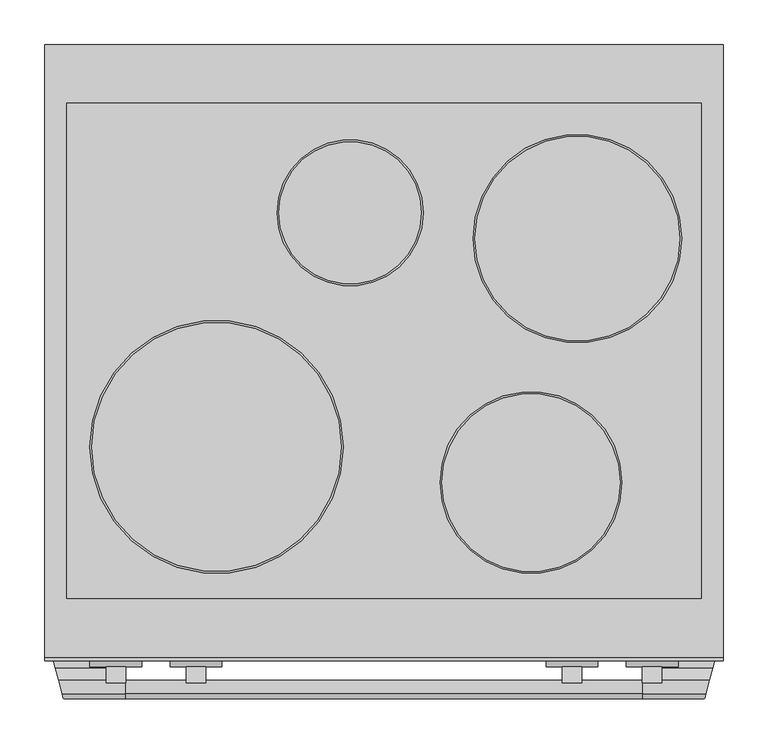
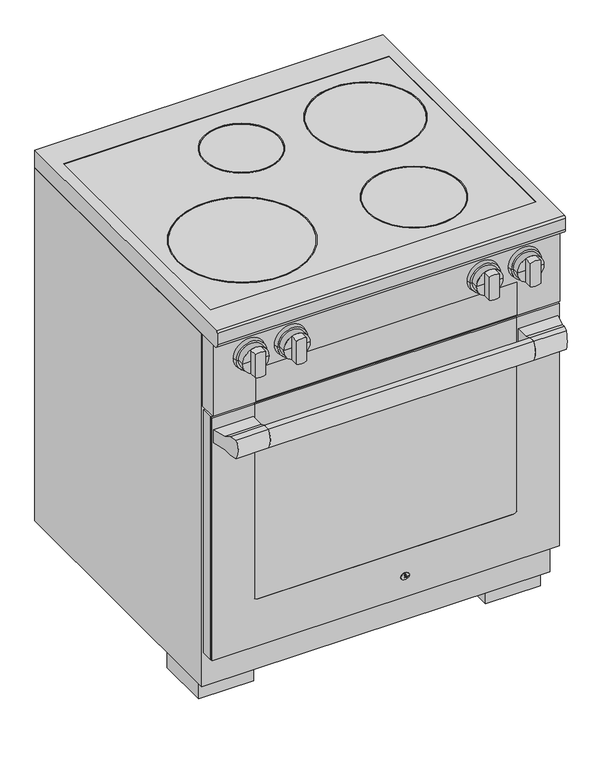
"""IFC4 building model written with IfcOpenShell, lengths in millimetres: proxy geometry, 10902350_USA_HR1622-2_EDST-CLST : 25162271_USA_10902350_HR1622-2_EDST-CLST."""

from ifc_helpers import new_model, si_unit, point, frame, frame_2d, origin, origin_with_axes, place, context, project, spatial, polyline, circle_curve, ellipse_curve, trimmed, segment, composite_curve, outline, extrude, faceted_brep, source, transform, mapped, element, save
from ifc_brep_helpers import plane_surface, cylinder_surface, revolved_surface, extruded_surface, advanced_brep


def specialty_equipment_7ad5a8f8(model_context):
    return source(origin(), model_context, "Body", "SolidModel", [
        extrude(outline(composite_curve([segment(polyline([(-729.0, 667.0), (-714.0, 667.0), (-714.0, 624.0), (-729.0, 624.0)]), True, "CONTINUOUS"), segment(trimmed(circle_curve(frame_2d((-693.4791667, 645.5)), 41.5208333), [point((-729.0, 624.0))], [point((-729.0, 667.0))], False, "CARTESIAN"), True, "CONTINUOUS")], self_intersect=False)), frame((-290.0, 0.0, 0.0), z_axis=(1.0, 0.0, 0.0), x_axis=(0.0, 1.0, 0.0)), (0.0, 0.0, 1.0), 580.0),
        extrude(outline(polyline([(-380.0, -638.0), (380.0, -638.0), (380.0, -664.7), (-380.0, -664.7), (-380.0, -638.0)])), frame((0.0, 0.0, 127.0), z_axis=(0.0, 0.0, 1.0), x_axis=(1.0, 0.0, 0.0)), (0.0, 0.0, 1.0), 561.0),
        extrude(outline(polyline([(-379.0, -664.7), (379.0, -664.7), (379.0, -668.7), (-379.0, -668.7), (-379.0, -664.7)])), frame((0.0, 0.0, 128.0), z_axis=(0.0, 0.0, 1.0), x_axis=(1.0, 0.0, 0.0)), (0.0, 0.0, 1.0), 559.0),
        advanced_brep(
        [(287.0, -664.7, 688.0), (380.0, -664.7, 688.0), (380.0, -664.7, 127.0), (-380.0, -664.7, 127.0), (-380.0, -664.7, 688.0), (-287.0, -664.7, 688.0), (-287.0, -664.7, 687.0), (-379.0, -664.7, 687.0), (-379.0, -664.7, 128.0), (379.0, -664.7, 128.0), (379.0, -664.7, 687.0), (287.0, -664.7, 687.0), (-287.0, -670.0, 688.0), (-380.0, -670.0, 688.0), (-380.0, -670.0, 127.0), (380.0, -670.0, 127.0), (380.0, -670.0, 688.0), (287.0, -670.0, 688.0), (287.0, -670.0, 241.0), (281.0, -670.0, 235.0), (-281.0, -670.0, 235.0), (-287.0, -670.0, 241.0), (-287.0, -668.7, 241.0), (-287.0, -668.7, 687.0), (281.0, -668.7, 235.0), (-281.0, -668.7, 235.0), (287.0, -668.7, 687.0), (287.0, -668.7, 241.0), (379.0, -668.7, 687.0), (379.0, -668.7, 128.0), (-379.0, -668.7, 128.0), (-379.0, -668.7, 687.0)],
        [
            (0, 1),
            (1, 2),
            (2, 3),
            (3, 4),
            (4, 5),
            (5, 6),
            (6, 7),
            (7, 8),
            (8, 9),
            (9, 10),
            (10, 11),
            (11, 0),
            (12, 13),
            (13, 14),
            (14, 15),
            (15, 16),
            (16, 17),
            (17, 18),
            (18, 19, circle_curve(frame((281.0, -670.0, 241.0), z_axis=(0.0, 1.0, 0.0), x_axis=(-1.0, 0.0, 0.0)), 6.0)),
            (19, 20),
            (20, 21, circle_curve(frame((-281.0, -670.0, 241.0), z_axis=(0.0, 1.0, 0.0), x_axis=(-1.0, 0.0, 0.0)), 6.0)),
            (21, 12),
            (21, 22),
            (22, 23),
            (23, 6),
            (5, 12),
            (19, 24),
            (24, 25),
            (25, 20),
            (17, 0),
            (11, 26),
            (26, 27),
            (27, 18),
            (16, 1),
            (15, 2),
            (14, 3),
            (13, 4),
            (25, 22, circle_curve(frame((-281.0, -668.7, 241.0), z_axis=(0.0, 1.0, 0.0), x_axis=(-1.0, 0.0, 0.0)), 6.0)),
            (27, 24, circle_curve(frame((281.0, -668.7, 241.0), z_axis=(0.0, 1.0, 0.0), x_axis=(-1.0, 0.0, 0.0)), 6.0)),
            (28, 29),
            (29, 30),
            (30, 31),
            (31, 23),
            (26, 28),
            (28, 10),
            (9, 29),
            (8, 30),
            (7, 31),
        ],
        [
            plane_surface(frame((-287.0, -664.7, 241.0), z_axis=(0.0, 1.0, 0.0), x_axis=(0.0, 0.0, -1.0))),
            plane_surface(frame((-287.0, -670.0, 241.0), z_axis=(0.0, -1.0, 0.0), x_axis=(0.0, 0.0, 1.0))),
            plane_surface(frame((-287.0, -664.7, 688.0), z_axis=(1.0, 0.0, 0.0), x_axis=(0.0, -1.0, 0.0))),
            plane_surface(frame((-281.0, -664.7, 235.0), z_axis=(0.0, 0.0, 1.0), x_axis=(0.0, -1.0, 0.0))),
            plane_surface(frame((287.0, -664.7, 241.0), z_axis=(-1.0, 0.0, 0.0), x_axis=(0.0, -1.0, 0.0))),
            plane_surface(frame((287.0, -664.7, 688.0), z_axis=(0.0, 0.0, 1.0), x_axis=(0.0, -1.0, 0.0))),
            plane_surface(frame((380.0, -664.7, 688.0), z_axis=(1.0, 0.0, 0.0), x_axis=(0.0, -1.0, 0.0))),
            plane_surface(frame((380.0, -664.7, 127.0), z_axis=(0.0, 0.0, -1.0), x_axis=(0.0, -1.0, 0.0))),
            plane_surface(frame((-380.0, -664.7, 127.0), z_axis=(-1.0, 0.0, 0.0), x_axis=(0.0, -1.0, 0.0))),
            plane_surface(frame((-380.0, -664.7, 688.0), z_axis=(0.0, 0.0, 1.0), x_axis=(0.0, -1.0, 0.0))),
            revolved_surface(polyline([(-287.0, -670.0, 241.0), (-287.0, -668.7, 241.0)]), (-281.0, -670.0, 241.0), (0.0, -1.0, 0.0)),
            revolved_surface(polyline([(275.0, -670.0, 241.0), (275.0, -668.7, 241.0)]), (281.0, -670.0, 241.0), (0.0, -1.0, 0.0)),
            plane_surface(frame((379.0, -668.7, 687.0), z_axis=(0.0, 1.0, 0.0), x_axis=(0.0, 0.0, 1.0))),
            plane_surface(frame((379.0, -664.7, 687.0), z_axis=(-1.0, 0.0, 0.0), x_axis=(0.0, -1.0, 0.0))),
            plane_surface(frame((379.0, -664.7, 128.0), z_axis=(0.0, 0.0, 1.0), x_axis=(0.0, -1.0, 0.0))),
            plane_surface(frame((-379.0, -664.7, 128.0), z_axis=(1.0, 0.0, 0.0), x_axis=(0.0, -1.0, 0.0))),
            plane_surface(frame((-379.0, -664.7, 687.0), z_axis=(0.0, 0.0, -1.0), x_axis=(0.0, -1.0, 0.0))),
        ],
        [
            (0, [[1, 2, 3, 4, 5, 6, 7, 8, 9, 10, 11, 12]]),
            (1, [[13, 14, 15, 16, 17, 18, 19, 20, 21, 22]]),
            (2, [[-22, 23, 24, 25, -6, 26]]),
            (3, [[-20, 27, 28, 29]]),
            (4, [[-18, 30, -12, 31, 32, 33]]),
            (5, [[-1, -30, -17, 34]]),
            (6, [[-2, -34, -16, 35]]),
            (7, [[-3, -35, -15, 36]]),
            (8, [[-4, -36, -14, 37]]),
            (9, [[-5, -37, -13, -26]]),
            (10, [[-21, -29, 38, -23]]),
            (11, [[-19, -33, 39, -27]]),
            (12, [[40, 41, 42, 43, -24, -38, -28, -39, -32, 44]]),
            (13, [[-40, 45, -10, 46]]),
            (14, [[-41, -46, -9, 47]]),
            (15, [[-42, -47, -8, 48]]),
            (16, [[-45, -44, -31, -11]]),
            (16, [[-48, -7, -25, -43]]),
        ],
    ),
        extrude(outline(polyline([(-351.0, -617.0), (351.0, -617.0), (351.0, -638.0), (-351.0, -638.0), (-351.0, -617.0)])), frame((0.0, 0.0, 133.0), z_axis=(0.0, 0.0, 1.0), x_axis=(1.0, 0.0, 0.0)), (0.0, 0.0, 1.0), 550.0),
        advanced_brep(
        [(-290.0, -700.0, 630.0), (-290.0, -670.0, 630.0), (-290.0, -670.0, 661.0), (-290.0, -700.0, 661.0), (-290.0, -714.0, 667.0), (-290.0, -729.0, 667.0), (-290.0, -729.0, 624.0), (-290.0, -714.0, 624.0), (-368.9615242, -700.0, 630.0), (-377.0, -670.0, 630.0), (-377.0, -670.0, 661.0), (-368.9615242, -700.0, 661.0), (-365.2102355, -714.0, 667.0), (-361.1909976, -729.0, 667.0), (-361.1909976, -729.0, 624.0), (-365.2102355, -714.0, 624.0)],
        [
            (0, 1),
            (1, 2),
            (2, 3),
            (3, 4),
            (4, 5),
            (5, 6, circle_curve(frame((-290.0, -693.4791667, 645.5), z_axis=(1.0, 0.0, 0.0), x_axis=(0.0, 0.0, 1.0)), 41.5208333)),
            (6, 7),
            (7, 0),
            (0, 8),
            (8, 9),
            (9, 1),
            (9, 10),
            (10, 2),
            (10, 11),
            (11, 3),
            (4, 12),
            (12, 13),
            (13, 5),
            (13, 14, ellipse_curve(frame((-370.7087763, -693.4791667, 645.5), z_axis=(0.9659258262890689, 0.258819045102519, 0.0), x_axis=(0.2588190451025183, -0.9659258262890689, 0.0)), 42.9855297, 41.5208333)),
            (14, 6),
            (14, 15),
            (15, 7),
            (8, 15),
            (12, 11),
        ],
        [
            plane_surface(frame((-290.0, -670.0, 630.0), z_axis=(1.0, 0.0, 0.0), x_axis=(0.0, 1.0, 0.0))),
            plane_surface(frame((-290.0, -700.0, 630.0), z_axis=(0.0, 0.0, -1.0), x_axis=(-1.0, 0.0, 0.0))),
            plane_surface(frame((-290.0, -670.0, 630.0), z_axis=(0.0, 1.0, 0.0), x_axis=(-1.0, 0.0, 0.0))),
            plane_surface(frame((-290.0, -670.0, 661.0), z_axis=(0.0, 0.0, 1.0), x_axis=(-1.0, 0.0, 0.0))),
            plane_surface(frame((-290.0, -714.0, 667.0), z_axis=(0.0, 0.0, 1.0), x_axis=(-1.0, 0.0, 0.0))),
            cylinder_surface(frame((-377.0, -693.4791667, 645.5), z_axis=(1.0, 0.0, 0.0), x_axis=(0.0, 0.0, 1.0)), 41.5208333),
            plane_surface(frame((-290.0, -729.0, 624.0), z_axis=(0.0, 0.0, -1.0), x_axis=(-1.0, 0.0, 0.0))),
            plane_surface(frame((-354.5578883, -753.7551012, 668.5), z_axis=(-0.9659258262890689, -0.258819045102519, 0.0), x_axis=(0.0, 0.0, -1.0))),
            plane_surface(frame((-290.0, -700.0, 661.0), z_axis=(0.0, 0.39391929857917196, 0.919145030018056), x_axis=(-1.0, 0.0, 0.0))),
            plane_surface(frame((-290.0, -714.0, 624.0), z_axis=(0.0, 0.39391929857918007, -0.9191450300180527), x_axis=(-1.0, 0.0, 0.0))),
        ],
        [
            (0, [[1, 2, 3, 4, 5, 6, 7, 8]]),
            (1, [[-1, 9, 10, 11]]),
            (2, [[-2, -11, 12, 13]]),
            (3, [[-3, -13, 14, 15]]),
            (4, [[-5, 16, 17, 18]]),
            (5, [[-6, -18, 19, 20]]),
            (6, [[-7, -20, 21, 22]]),
            (7, [[-10, 23, -21, -19, -17, 24, -14, -12]]),
            (8, [[-4, -15, -24, -16]]),
            (9, [[-8, -22, -23, -9]]),
        ],
    ),
        advanced_brep(
        [(290.0, -700.0, 661.0), (290.0, -670.0, 661.0), (290.0, -670.0, 630.0), (290.0, -700.0, 630.0), (290.0, -714.0, 624.0), (290.0, -729.0, 624.0), (290.0, -729.0, 667.0), (290.0, -714.0, 667.0), (361.1909976, -729.0, 667.0), (365.2102355, -714.0, 667.0), (361.1909976, -729.0, 624.0), (365.2102355, -714.0, 624.0), (377.0, -670.0, 630.0), (368.9615242, -700.0, 630.0), (377.0, -670.0, 661.0), (368.9615242, -700.0, 661.0)],
        [
            (0, 1),
            (1, 2),
            (2, 3),
            (3, 4),
            (4, 5),
            (5, 6, circle_curve(frame((290.0, -693.4791667, 645.5), z_axis=(-1.0, 0.0, 0.0), x_axis=(0.0, 0.0, 1.0)), 41.5208333)),
            (6, 7),
            (7, 0),
            (6, 8),
            (8, 9),
            (9, 7),
            (5, 10),
            (10, 8, ellipse_curve(frame((370.7087763, -693.4791667, 645.5), z_axis=(-0.9659258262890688, 0.258819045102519, 0.0), x_axis=(0.2588190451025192, 0.9659258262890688, 0.0)), 42.9855297, 41.5208333)),
            (4, 11),
            (11, 10),
            (2, 12),
            (12, 13),
            (13, 3),
            (1, 14),
            (14, 12),
            (0, 15),
            (15, 14),
            (11, 13),
            (15, 9),
        ],
        [
            plane_surface(frame((290.0, -714.0, 667.0), z_axis=(-1.0000000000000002, 0.0, 0.0), x_axis=(0.0, 0.9191450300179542, -0.3939192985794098))),
            plane_surface(frame((377.0, -714.0, 667.0), z_axis=(0.0, 0.0, 1.0), x_axis=(-1.0, 0.0, 0.0))),
            cylinder_surface(frame((290.0, -693.4791667, 645.5), z_axis=(1.0, 0.0, 0.0), x_axis=(0.0, 0.0, 1.0)), 41.5208333),
            plane_surface(frame((377.0, -729.0, 624.0), z_axis=(0.0, 0.0, -1.0), x_axis=(-1.0, 0.0, 0.0))),
            plane_surface(frame((377.0, -700.0, 630.0), z_axis=(0.0, 0.0, -1.0), x_axis=(-1.0, 0.0, 0.0))),
            plane_surface(frame((377.0, -670.0, 630.0), z_axis=(0.0, 1.0, 0.0), x_axis=(-1.0, 0.0, 0.0))),
            plane_surface(frame((377.0, -670.0, 661.0), z_axis=(0.0, 0.0, 1.0), x_axis=(-1.0, 0.0, 0.0))),
            plane_surface(frame((377.0, -670.0, 668.5), z_axis=(0.9659258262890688, -0.258819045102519, 0.0), x_axis=(0.0, 0.0, -1.0))),
            plane_surface(frame((377.0, -700.0, 661.0), z_axis=(0.0, 0.3939192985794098, 0.9191450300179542), x_axis=(-1.0, 0.0, 0.0))),
            plane_surface(frame((377.0, -714.0, 624.0), z_axis=(0.0, 0.3939192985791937, -0.9191450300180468), x_axis=(-1.0, 0.0, 0.0))),
        ],
        [
            (0, [[1, 2, 3, 4, 5, 6, 7, 8]]),
            (1, [[-7, 9, 10, 11]]),
            (2, [[-6, 12, 13, -9]]),
            (3, [[-5, 14, 15, -12]]),
            (4, [[-3, 16, 17, 18]]),
            (5, [[-2, 19, 20, -16]]),
            (6, [[-1, 21, 22, -19]]),
            (7, [[-10, -13, -15, 23, -17, -20, -22, 24]]),
            (8, [[-8, -11, -24, -21]]),
            (9, [[-4, -18, -23, -14]]),
        ],
    ),
        extrude(outline(polyline([(356.0, -66.0), (356.0, -622.0), (-356.0, -622.0), (-356.0, -66.0), (356.0, -66.0)])), frame((0.0, 0.0, 896.4), z_axis=(0.0, 0.0, 1.0), x_axis=(1.0, 0.0, 0.0)), (0.0, 0.0, 1.0), 4.0),
        advanced_brep(
        [(381.0, 0.0, 902.0), (381.0, -688.0, 902.0), (381.0, -692.0, 898.0), (381.0, -692.0, 872.0), (381.0, -682.0, 862.0), (381.0, 0.0, 862.0), (-381.0, 0.0, 902.0), (-381.0, 0.0, 862.0), (-381.0, -682.0, 862.0), (-381.0, -692.0, 872.0), (-381.0, -692.0, 898.0), (-381.0, -688.0, 902.0), (-356.0, -66.0, 902.0), (356.0, -66.0, 902.0), (356.0, -622.0, 902.0), (-356.0, -622.0, 902.0), (356.0, -66.0, 896.4), (-356.0, -66.0, 896.4), (-356.0, -622.0, 896.4), (356.0, -622.0, 896.4)],
        [
            (0, 1),
            (1, 2, circle_curve(frame((381.0, -688.0, 898.0), z_axis=(1.0, 0.0, 0.0), x_axis=(0.0, 0.0, 1.0)), 4.0)),
            (2, 3),
            (3, 4, circle_curve(frame((381.0, -682.0, 872.0), z_axis=(1.0, 0.0, 0.0), x_axis=(0.0, 0.0, 1.0)), 10.0)),
            (4, 5),
            (5, 0),
            (6, 7),
            (7, 8),
            (8, 9, circle_curve(frame((-381.0, -682.0, 872.0), z_axis=(-1.0, 0.0, 0.0), x_axis=(0.0, 0.0, 1.0)), 10.0)),
            (9, 10),
            (10, 11, circle_curve(frame((-381.0, -688.0, 898.0), z_axis=(-1.0, 0.0, 0.0), x_axis=(0.0, 0.0, 1.0)), 4.0)),
            (11, 6),
            (0, 6),
            (11, 1),
            (12, 13),
            (13, 14),
            (14, 15),
            (15, 12),
            (10, 2),
            (9, 3),
            (8, 4),
            (7, 5),
            (16, 17),
            (17, 18),
            (18, 19),
            (19, 16),
            (16, 13),
            (12, 17),
            (15, 18),
            (14, 19),
        ],
        [
            plane_surface(frame((381.0, -688.0, 902.0), z_axis=(1.0, 0.0, 0.0), x_axis=(0.0, -1.0, 0.0))),
            plane_surface(frame((-381.0, -688.0, 902.0), z_axis=(-1.0, 0.0, 0.0), x_axis=(0.0, 1.0, 0.0))),
            plane_surface(frame((381.0, 0.0, 902.0), z_axis=(0.0, 0.0, 1.0), x_axis=(-1.0, 0.0, 0.0))),
            cylinder_surface(frame((-381.0, -688.0, 898.0), z_axis=(1.0, 0.0, 0.0), x_axis=(0.0, 0.0, 1.0)), 4.0),
            plane_surface(frame((381.0, -692.0, 898.0), z_axis=(0.0, -1.0, 0.0), x_axis=(-1.0, 0.0, 0.0))),
            cylinder_surface(frame((-381.0, -682.0, 872.0), z_axis=(1.0, 0.0, 0.0), x_axis=(0.0, 0.0, 1.0)), 10.0),
            plane_surface(frame((381.0, -682.0, 862.0), z_axis=(0.0, 0.0, -1.0), x_axis=(-1.0, 0.0, 0.0))),
            plane_surface(frame((381.0, 0.0, 862.0), z_axis=(0.0, 1.0, 0.0), x_axis=(-1.0, 0.0, 0.0))),
            plane_surface(frame((-356.0, -66.0, 896.4), z_axis=(0.0, 0.0, 1.0), x_axis=(1.0, 0.0, 0.0))),
            plane_surface(frame((356.0, -66.0, 902.0), z_axis=(0.0, -1.0, 0.0), x_axis=(0.0, 0.0, -1.0))),
            plane_surface(frame((-356.0, -66.0, 902.0), z_axis=(1.0, 0.0, 0.0), x_axis=(0.0, 0.0, -1.0))),
            plane_surface(frame((-356.0, -622.0, 902.0), z_axis=(0.0, 1.0, 0.0), x_axis=(0.0, 0.0, -1.0))),
            plane_surface(frame((356.0, -622.0, 902.0), z_axis=(-1.0, 0.0, 0.0), x_axis=(0.0, 0.0, -1.0))),
        ],
        [
            (0, [[1, 2, 3, 4, 5, 6]]),
            (1, [[7, 8, 9, 10, 11, 12]]),
            (2, [[-1, 13, -12, 14], [15, 16, 17, 18]]),
            (3, [[-2, -14, -11, 19]]),
            (4, [[-3, -19, -10, 20]]),
            (5, [[-4, -20, -9, 21]]),
            (6, [[-5, -21, -8, 22]]),
            (7, [[-6, -22, -7, -13]]),
            (8, [[23, 24, 25, 26]]),
            (9, [[-23, 27, -15, 28]]),
            (10, [[-24, -28, -18, 29]]),
            (11, [[-25, -29, -17, 30]]),
            (12, [[-26, -30, -16, -27]]),
        ],
    ),
        extrude(outline(composite_curve([segment(trimmed(circle_curve(frame_2d((-38.0, -189.0)), 82.0), [point((44.0, -189.0))], [point((-120.0, -189.0))], False, "CARTESIAN"), True, "CONTINUOUS"), segment(trimmed(circle_curve(frame_2d((-38.0, -189.0)), 82.0), [point((-120.0, -189.0))], [point((44.0, -189.0))], False, "CARTESIAN"), True, "CONTINUOUS")], self_intersect=False), holes=[composite_curve([segment(trimmed(circle_curve(frame_2d((-38.0, -189.0)), 80.0), [point((42.0, -189.0))], [point((-118.0, -189.0))], True, "CARTESIAN"), True, "CONTINUOUS"), segment(trimmed(circle_curve(frame_2d((-38.0, -189.0)), 80.0), [point((-118.0, -189.0))], [point((42.0, -189.0))], True, "CARTESIAN"), True, "CONTINUOUS")], self_intersect=False)]), frame((0.0, 0.0, 900.4), z_axis=(0.0, 0.0, 1.0), x_axis=(1.0, 0.0, 0.0)), (0.0, 0.0, 1.0), 1.0),
        extrude(outline(composite_curve([segment(trimmed(circle_curve(frame_2d((217.0, -218.0)), 117.0), [point((334.0, -218.0))], [point((100.0, -218.0))], False, "CARTESIAN"), True, "CONTINUOUS"), segment(trimmed(circle_curve(frame_2d((217.0, -218.0)), 117.0), [point((100.0, -218.0))], [point((334.0, -218.0))], False, "CARTESIAN"), True, "CONTINUOUS")], self_intersect=False), holes=[composite_curve([segment(trimmed(circle_curve(frame_2d((217.0, -218.0)), 115.0), [point((332.0, -218.0))], [point((102.0, -218.0))], True, "CARTESIAN"), True, "CONTINUOUS"), segment(trimmed(circle_curve(frame_2d((217.0, -218.0)), 115.0), [point((102.0, -218.0))], [point((332.0, -218.0))], True, "CARTESIAN"), True, "CONTINUOUS")], self_intersect=False)]), frame((0.0, 0.0, 900.4), z_axis=(0.0, 0.0, 1.0), x_axis=(1.0, 0.0, 0.0)), (0.0, 0.0, 1.0), 1.0),
        extrude(outline(composite_curve([segment(trimmed(circle_curve(frame_2d((165.0, -492.0)), 102.0), [point((267.0, -492.0))], [point((63.0, -492.0))], False, "CARTESIAN"), True, "CONTINUOUS"), segment(trimmed(circle_curve(frame_2d((165.0, -492.0)), 102.0), [point((63.0, -492.0))], [point((267.0, -492.0))], False, "CARTESIAN"), True, "CONTINUOUS")], self_intersect=False), holes=[composite_curve([segment(trimmed(circle_curve(frame_2d((165.0, -492.0)), 100.0), [point((265.0, -492.0))], [point((65.0, -492.0))], True, "CARTESIAN"), True, "CONTINUOUS"), segment(trimmed(circle_curve(frame_2d((165.0, -492.0)), 100.0), [point((65.0, -492.0))], [point((265.0, -492.0))], True, "CARTESIAN"), True, "CONTINUOUS")], self_intersect=False)]), frame((0.0, 0.0, 900.4), z_axis=(0.0, 0.0, 1.0), x_axis=(1.0, 0.0, 0.0)), (0.0, 0.0, 1.0), 1.0),
        extrude(outline(composite_curve([segment(trimmed(circle_curve(frame_2d((-188.0, -452.0)), 142.0), [point((-46.0, -452.0))], [point((-330.0, -452.0))], False, "CARTESIAN"), True, "CONTINUOUS"), segment(trimmed(circle_curve(frame_2d((-188.0, -452.0)), 142.0), [point((-330.0, -452.0))], [point((-46.0, -452.0))], False, "CARTESIAN"), True, "CONTINUOUS")], self_intersect=False), holes=[composite_curve([segment(trimmed(circle_curve(frame_2d((-188.0, -452.0)), 140.0), [point((-48.0, -452.0))], [point((-328.0, -452.0))], True, "CARTESIAN"), True, "CONTINUOUS"), segment(trimmed(circle_curve(frame_2d((-188.0, -452.0)), 140.0), [point((-328.0, -452.0))], [point((-48.0, -452.0))], True, "CARTESIAN"), True, "CONTINUOUS")], self_intersect=False)]), frame((0.0, 0.0, 900.4), z_axis=(0.0, 0.0, 1.0), x_axis=(1.0, 0.0, 0.0)), (0.0, 0.0, 1.0), 1.0),
        extrude(outline(composite_curve([segment(polyline([(839.8328157, -312.0), (786.1671843, -312.0)]), True, "CONTINUOUS"), segment(trimmed(circle_curve(frame_2d((813.0, -301.0)), 29.0), [point((786.1671843, -312.0))], [point((786.1671843, -290.0))], False, "CARTESIAN"), True, "CONTINUOUS"), segment(polyline([(786.1671843, -290.0), (839.8328157, -290.0)]), True, "CONTINUOUS"), segment(trimmed(circle_curve(frame_2d((813.0, -301.0)), 29.0), [point((839.8328157, -290.0))], [point((839.8328157, -312.0))], False, "CARTESIAN"), True, "CONTINUOUS")], self_intersect=False)), frame((0.0, -717.0, 0.0), z_axis=(0.0, 1.0, 0.0), x_axis=(0.0, 0.0, 1.0)), (0.0, 0.0, 1.0), 18.0),
        extrude(outline(composite_curve([segment(polyline([(839.8328157, -222.0), (786.1671843, -222.0)]), True, "CONTINUOUS"), segment(trimmed(circle_curve(frame_2d((813.0, -211.0)), 29.0), [point((786.1671843, -222.0))], [point((786.1671843, -200.0))], False, "CARTESIAN"), True, "CONTINUOUS"), segment(polyline([(786.1671843, -200.0), (839.8328157, -200.0)]), True, "CONTINUOUS"), segment(trimmed(circle_curve(frame_2d((813.0, -211.0)), 29.0), [point((839.8328157, -200.0))], [point((839.8328157, -222.0))], False, "CARTESIAN"), True, "CONTINUOUS")], self_intersect=False)), frame((0.0, -717.0, 0.0), z_axis=(0.0, 1.0, 0.0), x_axis=(0.0, 0.0, 1.0)), (0.0, 0.0, 1.0), 18.0),
        extrude(outline(composite_curve([segment(trimmed(circle_curve(frame_2d((813.0, 211.0)), 29.0), [point((786.1671843, 200.0))], [point((786.1671843, 222.0))], False, "CARTESIAN"), True, "CONTINUOUS"), segment(polyline([(786.1671843, 222.0), (839.8328157, 222.0)]), True, "CONTINUOUS"), segment(trimmed(circle_curve(frame_2d((813.0, 211.0)), 29.0), [point((839.8328157, 222.0))], [point((839.8328157, 200.0))], False, "CARTESIAN"), True, "CONTINUOUS"), segment(polyline([(839.8328157, 200.0), (786.1671843, 200.0)]), True, "CONTINUOUS")], self_intersect=False)), frame((0.0, -717.0, 0.0), z_axis=(0.0, 1.0, 0.0), x_axis=(0.0, 0.0, 1.0)), (0.0, 0.0, 1.0), 18.0),
        advanced_brep(
        [(-301.0, -683.0, 813.0), (-272.0, -683.0, 813.0), (-330.0, -683.0, 813.0), (-330.0, -699.0, 813.0), (-272.0, -699.0, 813.0), (-301.0, -699.0, 813.0)],
        [
            (0, 1),
            (1, 2, circle_curve(frame((-301.0, -683.0, 813.0), z_axis=(0.0, 1.0, 0.0), x_axis=(1.0, 0.0, 0.0)), 29.0)),
            (2, 0),
            (2, 1, circle_curve(frame((-301.0, -683.0, 813.0), z_axis=(0.0, 1.0, 0.0), x_axis=(1.0, 0.0, 0.0)), 29.0)),
            (3, 4, circle_curve(frame((-301.0, -699.0, 813.0), z_axis=(0.0, -1.0, 0.0), x_axis=(1.0, 0.0, 0.0)), 29.0)),
            (4, 5),
            (5, 3),
            (4, 3, circle_curve(frame((-301.0, -699.0, 813.0), z_axis=(0.0, -1.0, 0.0), x_axis=(1.0, 0.0, 0.0)), 29.0)),
            (1, 4),
            (3, 2),
        ],
        [
            plane_surface(frame((-301.0, -683.0, 813.0), z_axis=(0.0, 1.0, 0.0), x_axis=(1.0, 0.0, 0.0))),
            plane_surface(frame((-301.0, -699.0, 813.0), z_axis=(0.0, -1.0, 0.0), x_axis=(1.0, 0.0, 0.0))),
            cylinder_surface(frame((-301.0, 751.3738435, 813.0), z_axis=(0.0, 1.0, 0.0), x_axis=(1.0, 0.0, 0.0)), 29.0),
        ],
        [
            (0, [[1, 2, 3]]),
            (0, [[-3, 4, -1]]),
            (1, [[5, 6, 7]]),
            (1, [[8, -7, -6]]),
            (2, [[-2, 9, -5, 10]]),
            (2, [[-4, -10, -8, -9]]),
        ],
    ),
        advanced_brep(
        [(-211.0, -683.0, 813.0), (-182.0, -683.0, 813.0), (-240.0, -683.0, 813.0), (-240.0, -699.0, 813.0), (-182.0, -699.0, 813.0), (-211.0, -699.0, 813.0)],
        [
            (0, 1),
            (1, 2, circle_curve(frame((-211.0, -683.0, 813.0), z_axis=(0.0, 1.0, 0.0), x_axis=(1.0, 0.0, 0.0)), 29.0)),
            (2, 0),
            (2, 1, circle_curve(frame((-211.0, -683.0, 813.0), z_axis=(0.0, 1.0, 0.0), x_axis=(1.0, 0.0, 0.0)), 29.0)),
            (3, 4, circle_curve(frame((-211.0, -699.0, 813.0), z_axis=(0.0, -1.0, 0.0), x_axis=(1.0, 0.0, 0.0)), 29.0)),
            (4, 5),
            (5, 3),
            (4, 3, circle_curve(frame((-211.0, -699.0, 813.0), z_axis=(0.0, -1.0, 0.0), x_axis=(1.0, 0.0, 0.0)), 29.0)),
            (1, 4),
            (3, 2),
        ],
        [
            plane_surface(frame((-211.0, -683.0, 813.0), z_axis=(0.0, 1.0, 0.0), x_axis=(1.0, 0.0, 0.0))),
            plane_surface(frame((-211.0, -699.0, 813.0), z_axis=(0.0, -1.0, 0.0), x_axis=(1.0, 0.0, 0.0))),
            cylinder_surface(frame((-211.0, 751.3738435, 813.0), z_axis=(0.0, 1.0, 0.0), x_axis=(1.0, 0.0, 0.0)), 29.0),
        ],
        [
            (0, [[1, 2, 3]]),
            (0, [[-3, 4, -1]]),
            (1, [[5, 6, 7]]),
            (1, [[8, -7, -6]]),
            (2, [[-2, 9, -5, 10]]),
            (2, [[-4, -10, -8, -9]]),
        ],
    ),
        advanced_brep(
        [(211.0, -683.0, 813.0), (240.0, -683.0, 813.0), (182.0, -683.0, 813.0), (182.0, -699.0, 813.0), (240.0, -699.0, 813.0), (211.0, -699.0, 813.0)],
        [
            (0, 1),
            (1, 2, circle_curve(frame((211.0, -683.0, 813.0), z_axis=(0.0, 1.0, 0.0), x_axis=(1.0, 0.0, 0.0)), 29.0)),
            (2, 0),
            (2, 1, circle_curve(frame((211.0, -683.0, 813.0), z_axis=(0.0, 1.0, 0.0), x_axis=(1.0, 0.0, 0.0)), 29.0)),
            (3, 4, circle_curve(frame((211.0, -699.0, 813.0), z_axis=(0.0, -1.0, 0.0), x_axis=(1.0, 0.0, 0.0)), 29.0)),
            (4, 5),
            (5, 3),
            (4, 3, circle_curve(frame((211.0, -699.0, 813.0), z_axis=(0.0, -1.0, 0.0), x_axis=(1.0, 0.0, 0.0)), 29.0)),
            (1, 4),
            (3, 2),
        ],
        [
            plane_surface(frame((211.0, -683.0, 813.0), z_axis=(0.0, 1.0, 0.0), x_axis=(1.0, 0.0, 0.0))),
            plane_surface(frame((211.0, -699.0, 813.0), z_axis=(0.0, -1.0, 0.0), x_axis=(1.0, 0.0, 0.0))),
            cylinder_surface(frame((211.0, 751.3738435, 813.0), z_axis=(0.0, 1.0, 0.0), x_axis=(1.0, 0.0, 0.0)), 29.0),
        ],
        [
            (0, [[1, 2, 3]]),
            (0, [[-3, 4, -1]]),
            (1, [[5, 6, 7]]),
            (1, [[8, -7, -6]]),
            (2, [[-2, 9, -5, 10]]),
            (2, [[-4, -10, -8, -9]]),
        ],
    ),
        extrude(outline(composite_curve([segment(polyline([(786.1671843, 312.0), (839.8328157, 312.0)]), True, "CONTINUOUS"), segment(trimmed(circle_curve(frame_2d((813.0, 301.0)), 29.0), [point((839.8328157, 312.0))], [point((839.8328157, 290.0))], False, "CARTESIAN"), True, "CONTINUOUS"), segment(polyline([(839.8328157, 290.0), (786.1671843, 290.0)]), True, "CONTINUOUS"), segment(trimmed(circle_curve(frame_2d((813.0, 301.0)), 29.0), [point((786.1671843, 290.0))], [point((786.1671843, 312.0))], False, "CARTESIAN"), True, "CONTINUOUS")], self_intersect=False)), frame((0.0, -717.0, 0.0), z_axis=(0.0, 1.0, 0.0), x_axis=(0.0, 0.0, 1.0)), (0.0, 0.0, 1.0), 18.0),
        advanced_brep(
        [(301.0, -683.0, 813.0), (330.0, -683.0, 813.0), (272.0, -683.0, 813.0), (272.0, -699.0, 813.0), (330.0, -699.0, 813.0), (301.0, -699.0, 813.0)],
        [
            (0, 1),
            (1, 2, circle_curve(frame((301.0, -683.0, 813.0), z_axis=(0.0, 1.0, 0.0), x_axis=(1.0, 0.0, 0.0)), 29.0)),
            (2, 0),
            (2, 1, circle_curve(frame((301.0, -683.0, 813.0), z_axis=(0.0, 1.0, 0.0), x_axis=(1.0, 0.0, 0.0)), 29.0)),
            (3, 4, circle_curve(frame((301.0, -699.0, 813.0), z_axis=(0.0, -1.0, 0.0), x_axis=(1.0, 0.0, 0.0)), 29.0)),
            (4, 5),
            (5, 3),
            (4, 3, circle_curve(frame((301.0, -699.0, 813.0), z_axis=(0.0, -1.0, 0.0), x_axis=(1.0, 0.0, 0.0)), 29.0)),
            (1, 4),
            (3, 2),
        ],
        [
            plane_surface(frame((301.0, -683.0, 813.0), z_axis=(0.0, 1.0, 0.0), x_axis=(1.0, 0.0, 0.0))),
            plane_surface(frame((301.0, -699.0, 813.0), z_axis=(0.0, -1.0, 0.0), x_axis=(1.0, 0.0, 0.0))),
            cylinder_surface(frame((301.0, 751.3738435, 813.0), z_axis=(0.0, 1.0, 0.0), x_axis=(1.0, 0.0, 0.0)), 29.0),
        ],
        [
            (0, [[1, 2, 3]]),
            (0, [[-3, 4, -1]]),
            (1, [[5, 6, 7]]),
            (1, [[8, -7, -6]]),
            (2, [[-2, 9, -5, 10]]),
            (2, [[-4, -10, -8, -9]]),
        ],
    ),
        extrude(outline(polyline([(-287.0, -666.7), (287.0, -666.7), (287.0, -671.7), (-287.0, -671.7), (-287.0, -666.7)])), frame((0.0, 0.0, 695.0), z_axis=(0.0, 0.0, 1.0), x_axis=(1.0, 0.0, 0.0)), (0.0, 0.0, 1.0), 77.0),
        faceted_brep([(380.0, -673.0, 862.0), (-380.0, -673.0, 862.0), (-380.0, -673.0, 695.0), (-287.0, -673.0, 695.0), (-287.0, -673.0, 772.0), (287.0, -673.0, 772.0), (287.0, -673.0, 695.0), (380.0, -673.0, 695.0), (380.0, -633.0, 862.0), (380.0, -633.0, 695.0), (-380.0, -633.0, 695.0), (-380.0, -633.0, 862.0), (287.0, -666.7, 695.0), (-287.0, -666.7, 695.0), (287.0, -666.7, 772.0), (-287.0, -666.7, 772.0)], [[[0, 1, 2, 3, 4, 5, 6, 7]], [[8, 9, 10, 11]], [[0, 7, 9, 8]], [[10, 9, 7, 6, 12, 13, 3, 2]], [[2, 1, 11, 10]], [[1, 0, 8, 11]], [[14, 15, 13, 12]], [[14, 12, 6, 5]], [[13, 15, 4, 3]], [[15, 14, 5, 4]]]),
        advanced_brep(
        [(-334.2367302, -683.0, 813.0), (-267.7632698, -683.0, 813.0), (-301.0, -683.0, 813.0), (-336.0, -673.0, 813.0), (-266.0, -673.0, 813.0), (-301.0, -673.0, 813.0)],
        [
            (0, 1, circle_curve(frame((-301.0, -683.0, 813.0), z_axis=(0.0, -1.0, 0.0), x_axis=(1.0, 0.0, 0.0)), 33.2367302)),
            (1, 2),
            (2, 0),
            (1, 0, circle_curve(frame((-301.0, -683.0, 813.0), z_axis=(0.0, -1.0, 0.0), x_axis=(1.0, 0.0, 0.0)), 33.2367302)),
            (3, 4, circle_curve(frame((-301.0, -673.0, 813.0), z_axis=(0.0, -1.0, 0.0), x_axis=(1.0, 0.0, 0.0)), 35.0)),
            (4, 1),
            (0, 3),
            (4, 3, circle_curve(frame((-301.0, -673.0, 813.0), z_axis=(0.0, -1.0, 0.0), x_axis=(1.0, 0.0, 0.0)), 35.0)),
            (5, 4),
            (3, 5),
        ],
        [
            plane_surface(frame((-301.0, -683.0, 813.0), z_axis=(0.0, -1.0, 0.0), x_axis=(1.0, 0.0, 0.0))),
            revolved_surface(polyline([(-267.7632698, -683.0, 813.0), (-266.0, -673.0, 813.0)]), (-301.0, 751.3738435, 813.0), (0.0, 1.0, 0.0)),
            plane_surface(frame((-301.0, -673.0, 813.0), z_axis=(0.0, 1.0, 0.0), x_axis=(1.0, 0.0, 0.0))),
        ],
        [
            (0, [[1, 2, 3]]),
            (0, [[4, -3, -2]]),
            (1, [[5, 6, -1, 7]]),
            (1, [[8, -7, -4, -6]]),
            (2, [[9, -5, 10]]),
            (2, [[-10, -8, -9]]),
        ],
    ),
        advanced_brep(
        [(-244.2367302, -683.0, 813.0), (-177.7632698, -683.0, 813.0), (-211.0, -683.0, 813.0), (-246.0, -673.0, 813.0), (-176.0, -673.0, 813.0), (-211.0, -673.0, 813.0)],
        [
            (0, 1, circle_curve(frame((-211.0, -683.0, 813.0), z_axis=(0.0, -1.0, 0.0), x_axis=(1.0, 0.0, 0.0)), 33.2367302)),
            (1, 2),
            (2, 0),
            (1, 0, circle_curve(frame((-211.0, -683.0, 813.0), z_axis=(0.0, -1.0, 0.0), x_axis=(1.0, 0.0, 0.0)), 33.2367302)),
            (3, 4, circle_curve(frame((-211.0, -673.0, 813.0), z_axis=(0.0, -1.0, 0.0), x_axis=(1.0, 0.0, 0.0)), 35.0)),
            (4, 1),
            (0, 3),
            (4, 3, circle_curve(frame((-211.0, -673.0, 813.0), z_axis=(0.0, -1.0, 0.0), x_axis=(1.0, 0.0, 0.0)), 35.0)),
            (5, 4),
            (3, 5),
        ],
        [
            plane_surface(frame((-211.0, -683.0, 813.0), z_axis=(0.0, -1.0, 0.0), x_axis=(1.0, 0.0, 0.0))),
            revolved_surface(polyline([(-177.7632698, -683.0, 813.0), (-176.0, -673.0, 813.0)]), (-211.0, 751.3738435, 813.0), (0.0, 1.0, 0.0)),
            plane_surface(frame((-211.0, -673.0, 813.0), z_axis=(0.0, 1.0, 0.0), x_axis=(1.0, 0.0, 0.0))),
        ],
        [
            (0, [[1, 2, 3]]),
            (0, [[4, -3, -2]]),
            (1, [[5, 6, -1, 7]]),
            (1, [[8, -7, -4, -6]]),
            (2, [[9, -5, 10]]),
            (2, [[-10, -8, -9]]),
        ],
    ),
        advanced_brep(
        [(177.7632698, -683.0, 813.0), (244.2367302, -683.0, 813.0), (211.0, -683.0, 813.0), (176.0, -673.0, 813.0), (246.0, -673.0, 813.0), (211.0, -673.0, 813.0)],
        [
            (0, 1, circle_curve(frame((211.0, -683.0, 813.0), z_axis=(0.0, -1.0, 0.0), x_axis=(1.0, 0.0, 0.0)), 33.2367302)),
            (1, 2),
            (2, 0),
            (1, 0, circle_curve(frame((211.0, -683.0, 813.0), z_axis=(0.0, -1.0, 0.0), x_axis=(1.0, 0.0, 0.0)), 33.2367302)),
            (3, 4, circle_curve(frame((211.0, -673.0, 813.0), z_axis=(0.0, -1.0, 0.0), x_axis=(1.0, 0.0, 0.0)), 35.0)),
            (4, 1),
            (0, 3),
            (4, 3, circle_curve(frame((211.0, -673.0, 813.0), z_axis=(0.0, -1.0, 0.0), x_axis=(1.0, 0.0, 0.0)), 35.0)),
            (5, 4),
            (3, 5),
        ],
        [
            plane_surface(frame((211.0, -683.0, 813.0), z_axis=(0.0, -1.0, 0.0), x_axis=(1.0, 0.0, 0.0))),
            revolved_surface(polyline([(244.2367302, -683.0, 813.0), (246.0, -673.0, 813.0)]), (211.0, 751.3738435, 813.0), (0.0, 1.0, 0.0)),
            plane_surface(frame((211.0, -673.0, 813.0), z_axis=(0.0, 1.0, 0.0), x_axis=(1.0, 0.0, 0.0))),
        ],
        [
            (0, [[1, 2, 3]]),
            (0, [[4, -3, -2]]),
            (1, [[5, 6, -1, 7]]),
            (1, [[8, -7, -4, -6]]),
            (2, [[9, -5, 10]]),
            (2, [[-10, -8, -9]]),
        ],
    ),
        advanced_brep(
        [(267.7632698, -683.0, 813.0), (334.2367302, -683.0, 813.0), (301.0, -683.0, 813.0), (266.0, -673.0, 813.0), (336.0, -673.0, 813.0), (301.0, -673.0, 813.0)],
        [
            (0, 1, circle_curve(frame((301.0, -683.0, 813.0), z_axis=(0.0, -1.0, 0.0), x_axis=(1.0, 0.0, 0.0)), 33.2367302)),
            (1, 2),
            (2, 0),
            (1, 0, circle_curve(frame((301.0, -683.0, 813.0), z_axis=(0.0, -1.0, 0.0), x_axis=(1.0, 0.0, 0.0)), 33.2367302)),
            (3, 4, circle_curve(frame((301.0, -673.0, 813.0), z_axis=(0.0, -1.0, 0.0), x_axis=(1.0, 0.0, 0.0)), 35.0)),
            (4, 1),
            (0, 3),
            (4, 3, circle_curve(frame((301.0, -673.0, 813.0), z_axis=(0.0, -1.0, 0.0), x_axis=(1.0, 0.0, 0.0)), 35.0)),
            (5, 4),
            (3, 5),
        ],
        [
            plane_surface(frame((301.0, -683.0, 813.0), z_axis=(0.0, -1.0, 0.0), x_axis=(1.0, 0.0, 0.0))),
            revolved_surface(polyline([(334.2367302, -683.0, 813.0), (336.0, -673.0, 813.0)]), (301.0, 751.3738435, 813.0), (0.0, 1.0, 0.0)),
            plane_surface(frame((301.0, -673.0, 813.0), z_axis=(0.0, 1.0, 0.0), x_axis=(1.0, 0.0, 0.0))),
        ],
        [
            (0, [[1, 2, 3]]),
            (0, [[4, -3, -2]]),
            (1, [[5, 6, -1, 7]]),
            (1, [[8, -7, -4, -6]]),
            (2, [[9, -5, 10]]),
            (2, [[-10, -8, -9]]),
        ],
    ),
        extrude(outline(composite_curve([segment(trimmed(circle_curve(frame_2d((-152.0, 39.6862697)), 39.6862697), [point((-112.6710759, 45.0))], [point((-191.3289241, 45.0))], False, "CARTESIAN"), True, "CONTINUOUS"), segment(polyline([(-191.3289241, 45.0), (-112.6710759, 45.0)]), True, "CONTINUOUS")], self_intersect=False)), frame((206.0, 0.0, 0.0), z_axis=(1.0, 0.0, 0.0), x_axis=(0.0, 1.0, 0.0)), (0.0, 0.0, 1.0), 28.0),
        faceted_brep([(356.0, -608.0, 695.0), (-356.0, -608.0, 695.0), (-356.0, -608.0, 128.0), (356.0, -608.0, 128.0), (312.0, -608.0, 608.0), (312.0, -608.0, 185.0), (-312.0, -608.0, 185.0), (-312.0, -608.0, 608.0), (356.0, -633.0, 128.0), (356.0, -633.0, 695.0), (-356.0, -633.0, 128.0), (-356.0, -633.0, 695.0), (-381.0, 0.0, 862.0), (-381.0, -633.0, 862.0), (381.0, -633.0, 862.0), (381.0, 0.0, 862.0), (356.0, 0.0, 862.0), (356.0, -23.0, 862.0), (266.0, -23.0, 862.0), (266.0, 0.0, 862.0), (65.0, 0.0, 862.0), (65.0, -23.0, 862.0), (-66.0, -23.0, 862.0), (-66.0, 0.0, 862.0), (381.0, 0.0, 45.0), (381.0, -633.0, 45.0), (-381.0, -633.0, 45.0), (-381.0, 0.0, 45.0), (-356.0, 0.0, 45.0), (-356.0, -75.0, 45.0), (356.0, -75.0, 45.0), (356.0, 0.0, 45.0), (266.0, 0.0, 132.0), (65.0, 0.0, 132.0), (-66.0, 0.0, 132.0), (-270.0, 0.0, 132.0), (-270.0, 0.0, 784.0), (-335.0, 0.0, 784.0), (-335.0, 0.0, 132.0), (-356.0, 0.0, 132.0), (312.0, -173.0, 608.0), (-312.0, -173.0, 608.0), (-312.0, -173.0, 185.0), (312.0, -173.0, 185.0), (-356.0, -75.0, 132.0), (356.0, -75.0, 132.0), (-335.0, -73.0, 132.0), (-270.0, -73.0, 132.0), (-66.0, -23.0, 132.0), (65.0, -23.0, 132.0), (266.0, -23.0, 132.0), (356.0, -23.0, 132.0), (-335.0, -73.0, 784.0), (-270.0, -73.0, 784.0)], [[[0, 1, 2, 3], [4, 5, 6, 7]], [[0, 3, 8, 9]], [[3, 2, 10, 8]], [[2, 1, 11, 10]], [[1, 0, 9, 11]], [[12, 13, 14, 15, 16, 17, 18, 19, 20, 21, 22, 23]], [[24, 25, 26, 27, 28, 29, 30, 31]], [[20, 19, 32, 33]], [[15, 24, 31, 16]], [[27, 12, 23, 34, 35, 36, 37, 38, 39, 28]], [[13, 12, 27, 26]], [[14, 13, 26, 25], [9, 8, 10, 11]], [[15, 14, 25, 24]], [[40, 41, 42, 43]], [[40, 43, 5, 4]], [[43, 42, 6, 5]], [[42, 41, 7, 6]], [[41, 40, 4, 7]], [[44, 45, 30, 29]], [[45, 44, 39, 38, 46, 47, 35, 34, 48, 49, 33, 32, 50, 51]], [[30, 45, 51, 17, 16, 31]], [[39, 44, 29, 28]], [[52, 53, 47, 46]], [[53, 52, 37, 36]], [[53, 36, 35, 47]], [[37, 52, 46, 38]], [[17, 51, 50, 18]], [[21, 49, 48, 22]], [[49, 21, 20, 33]], [[22, 48, 34, 23]], [[18, 50, 32, 19]]]),
        extrude(outline(polyline([(225.4261097, -45.2846028), (218.1553153, -45.2846028), (218.1553153, -44.0259878), (224.1324687, -44.0259878), (224.1324687, -41.0398896), (218.4699511, -41.0398896), (218.4699511, -39.7868997), (224.1324687, -39.7868997), (224.1324687, -36.484481), (218.0234692, -36.484481), (218.0234692, -35.223126), (225.4261097, -35.223126), (225.4261097, -45.2846028)])), frame((0.0, 0.0, 101.0), z_axis=(0.0, 0.0, 1.0), x_axis=(1.0, 0.0, 0.0)), (0.0, 0.0, 1.0), 1.0),
        extrude(outline(polyline([(216.0939455, -45.2781045), (209.9083542, -45.2781045), (209.9083542, -44.0259878), (214.9083542, -44.0259878), (214.9083542, -35.223126), (216.0939455, -35.223126), (216.0939455, -45.2781045)])), frame((0.0, 0.0, 101.0), z_axis=(0.0, 0.0, 1.0), x_axis=(1.0, 0.0, 0.0)), (0.0, 0.0, 1.0), 1.0),
        extrude(outline(composite_curve([segment(trimmed(circle_curve(frame_2d((218.0, -41.0)), 7.5), [point((218.0, -48.5))], [point((218.0, -33.5))], False, "CARTESIAN"), True, "CONTINUOUS"), segment(trimmed(circle_curve(frame_2d((218.0, -41.0)), 7.5), [point((218.0, -33.5))], [point((218.0, -48.5))], False, "CARTESIAN"), True, "CONTINUOUS")], self_intersect=False)), frame((0.0, 0.0, 102.0), z_axis=(0.0, 0.0, 1.0), x_axis=(1.0, 0.0, 0.0)), (0.0, 0.0, 1.0), 30.0),
        extrude(outline(polyline([(747.9900117, -299.5376107), (758.0405487, -296.8032463), (758.0405487, -298.1010309), (749.3952189, -300.1941056), (758.0411296, -302.6946617), (758.0411296, -304.5615338), (749.4117226, -307.0845612), (758.0419182, -309.165026), (758.0419182, -310.4626989), (747.9984871, -307.7244126), (747.9984871, -306.3735976), (756.8308623, -303.6286268), (747.9900117, -301.0716905), (747.9900117, -299.5376107)])), frame((0.0, -35.0, 0.0), z_axis=(0.0, 1.0, 0.0), x_axis=(0.0, 0.0, 1.0)), (0.0, 0.0, 1.0), 1.0),
        extrude(outline(polyline([(748.0, -288.4829639), (758.0509015, -288.4829639), (758.0509015, -289.7409127), (753.1386151, -289.7409127), (758.0475587, -294.8904554), (758.0475587, -296.6455728), (753.9164775, -292.3179994), (748.0, -296.8019347), (748.0, -295.2701694), (753.0664133, -291.4304743), (751.4465471, -289.7392234), (748.0, -289.7392234), (748.0, -288.4829639)])), frame((0.0, -35.0, 0.0), z_axis=(0.0, 1.0, 0.0), x_axis=(0.0, 0.0, 1.0)), (0.0, 0.0, 1.0), 1.0),
        extrude(outline(composite_curve([segment(trimmed(circle_curve(frame_2d((753.0, -299.0)), 7.5), [point((753.0, -291.5))], [point((753.0, -306.5))], False, "CARTESIAN"), True, "CONTINUOUS"), segment(trimmed(circle_curve(frame_2d((753.0, -299.0)), 7.5), [point((753.0, -306.5))], [point((753.0, -291.5))], False, "CARTESIAN"), True, "CONTINUOUS")], self_intersect=False)), frame((0.0, -65.0, 0.0), z_axis=(0.0, 1.0, 0.0), x_axis=(0.0, 0.0, 1.0)), (0.0, 0.0, 1.0), 30.0),
        extrude(outline(composite_curve([segment(trimmed(circle_curve(frame_2d((-152.0, 39.6862697)), 39.6862697), [point((-112.6710759, 45.0))], [point((-191.3289241, 45.0))], False, "CARTESIAN"), True, "CONTINUOUS"), segment(polyline([(-191.3289241, 45.0), (-112.6710759, 45.0)]), True, "CONTINUOUS")], self_intersect=False)), frame((-234.0, 0.0, 0.0), z_axis=(1.0, 0.0, 0.0), x_axis=(0.0, 1.0, 0.0)), (0.0, 0.0, 1.0), 28.0),
        extrude(outline(polyline([(-254.0, -489.0), (-254.0, -609.0), (-374.0, -609.0), (-374.0, -489.0), (-254.0, -489.0)])), origin_with_axes(), (0.0, 0.0, 1.0), 45.0),
        extrude(outline(polyline([(374.0, -489.0), (374.0, -609.0), (254.0, -609.0), (254.0, -489.0), (374.0, -489.0)])), origin_with_axes(), (0.0, 0.0, 1.0), 45.0),
        advanced_brep(
        [(39.18, -674.0, 175.9105), (39.18, -674.0, 177.577), (50.2185, -674.0, 177.577), (31.0125, -674.0, 177.577), (35.55, -674.0, 172.0), (49.938, -674.0, 175.9105), (44.955, -674.0, 175.9105), (41.028, -674.0, 174.0625), (39.18, -674.0, 179.689), (39.18, -674.0, 181.4875), (42.0015, -674.0, 181.4875), (42.0015, -674.0, 179.689), (39.18, -673.0, 175.9105), (41.028, -673.0, 174.0625), (44.955, -673.0, 175.9105), (49.938, -673.0, 175.9105), (35.55, -673.0, 172.0), (31.0125, -673.0, 177.577), (50.2185, -673.0, 177.577), (39.18, -673.0, 177.577), (39.18, -673.0, 179.689), (42.0015, -673.0, 179.689), (42.0015, -673.0, 181.4875), (39.18, -673.0, 181.4875)],
        [
            (0, 1),
            (1, 2),
            (2, 3, ellipse_curve(frame((40.6155, -674.0, 177.577), z_axis=(0.0, -1.0, 0.0), x_axis=(-1.0, 0.0, 0.0)), 9.603, 7.9365)),
            (3, 4, circle_curve(frame((37.39809, -674.0, 178.138), z_axis=(0.0, -1.0, 0.0), x_axis=(0.0, 0.0, -1.0)), 6.4101857)),
            (4, 5, circle_curve(frame((40.4232618, -674.0, 182.494), z_axis=(0.0, -1.0, 0.0), x_axis=(0.0, 0.0, -1.0)), 11.5703378)),
            (5, 6),
            (6, 7, circle_curve(frame((41.8345588, -674.0, 177.445), z_axis=(0.0, 1.0, 0.0), x_axis=(0.0, 0.0, -1.0)), 3.4773328)),
            (7, 0, circle_curve(frame((41.028, -674.0, 175.9105), z_axis=(0.0, 1.0, 0.0), x_axis=(0.0, 0.0, -1.0)), 1.848)),
            (8, 9),
            (9, 10, circle_curve(frame((40.59075, -674.0, 181.4875), z_axis=(0.0, 1.0, 0.0), x_axis=(0.0, 0.0, -1.0)), 1.41075)),
            (10, 11),
            (11, 8),
            (12, 13, circle_curve(frame((41.028, -673.0, 175.9105), z_axis=(0.0, -1.0, 0.0), x_axis=(0.0, 0.0, -1.0)), 1.848)),
            (13, 14, circle_curve(frame((41.8345588, -673.0, 177.445), z_axis=(0.0, -1.0, 0.0), x_axis=(0.0, 0.0, -1.0)), 3.4773328)),
            (14, 15),
            (15, 16, circle_curve(frame((40.4232618, -673.0, 182.494), z_axis=(0.0, 1.0, 0.0), x_axis=(0.0, 0.0, -1.0)), 11.5703378)),
            (16, 17, circle_curve(frame((37.39809, -673.0, 178.138), z_axis=(0.0, 1.0, 0.0), x_axis=(0.0, 0.0, -1.0)), 6.4101857)),
            (17, 18, ellipse_curve(frame((40.6155, -673.0, 177.577), z_axis=(0.0, 1.0, 0.0), x_axis=(-1.0, 0.0, 0.0)), 9.603, 7.9365)),
            (18, 19),
            (19, 12),
            (20, 21),
            (21, 22),
            (22, 23, circle_curve(frame((40.59075, -673.0, 181.4875), z_axis=(0.0, -1.0, 0.0), x_axis=(0.0, 0.0, -1.0)), 1.41075)),
            (23, 20),
            (0, 12),
            (19, 1),
            (18, 2),
            (5, 15),
            (14, 6),
            (17, 3),
            (13, 7),
            (16, 4),
            (8, 20),
            (23, 9),
            (22, 10),
            (21, 11),
        ],
        [
            plane_surface(frame((39.18, -674.0, 177.577), z_axis=(0.0, -1.0, 0.0), x_axis=(0.0, 0.0, 1.0))),
            plane_surface(frame((39.18, -673.0, 177.577), z_axis=(0.0, 1.0, 0.0), x_axis=(0.0, 0.0, -1.0))),
            plane_surface(frame((39.18, -674.0, 175.9105), z_axis=(1.0, 0.0, 0.0), x_axis=(0.0, 1.0, 0.0))),
            plane_surface(frame((39.18, -674.0, 177.577), z_axis=(0.0, 0.0, -1.0), x_axis=(0.0, 1.0, 0.0))),
            plane_surface(frame((49.938, -674.0, 175.9105), z_axis=(0.0, 0.0, 1.0), x_axis=(0.0, 1.0, 0.0))),
            extruded_surface(trimmed(ellipse_curve(frame((40.6155, -672.0, 177.577), z_axis=(0.0, -1.0, 0.0), x_axis=(-1.0, 0.0, 0.0)), 9.603, 7.9365), [point((50.2185, -672.0, 177.577))], [point((31.0125, -672.0, 177.577))], True, "CARTESIAN"), (0.0, -1.0, 0.0), 1.0),
            revolved_surface(polyline([(41.8345588, -673.0, 173.9676672), (41.8345588, -674.0, 173.9676672)]), (41.8345588, -673.0, 177.445), (0.0, 1.0, 0.0)),
            revolved_surface(polyline([(41.028, -673.0, 174.0625), (41.028, -674.0, 174.0625)]), (41.028, -673.0, 175.9105), (0.0, 1.0, 0.0)),
            cylinder_surface(frame((37.39809, -673.0, 178.138), z_axis=(0.0, -1.0, 0.0), x_axis=(0.0, 0.0, -1.0)), 6.4101857),
            cylinder_surface(frame((40.4232618, -673.0, 182.494), z_axis=(0.0, -1.0, 0.0), x_axis=(0.0, 0.0, -1.0)), 11.5703378),
            plane_surface(frame((39.18, -674.0, 179.689), z_axis=(1.0, 0.0, 0.0), x_axis=(0.0, 1.0, 0.0))),
            revolved_surface(polyline([(40.59075, -673.0, 180.07675), (40.59075, -674.0, 180.07675)]), (40.59075, -673.0, 181.4875), (0.0, 1.0, 0.0)),
            plane_surface(frame((42.0015, -674.0, 181.4875), z_axis=(-1.0, 0.0, 0.0), x_axis=(0.0, 1.0, 0.0))),
            plane_surface(frame((42.0015, -674.0, 179.689), z_axis=(0.0, 0.0, 1.0), x_axis=(0.0, 1.0, 0.0))),
        ],
        [
            (0, [[1, 2, 3, 4, 5, 6, 7, 8], [9, 10, 11, 12]]),
            (1, [[13, 14, 15, 16, 17, 18, 19, 20], [21, 22, 23, 24]]),
            (2, [[-1, 25, -20, 26]]),
            (3, [[-2, -26, -19, 27]]),
            (4, [[-6, 28, -15, 29]]),
            (5, [[-3, -27, -18, 30]]),
            (6, [[-7, -29, -14, 31]]),
            (7, [[-8, -31, -13, -25]]),
            (8, [[-4, -30, -17, 32]]),
            (9, [[-5, -32, -16, -28]]),
            (10, [[-9, 33, -24, 34]]),
            (11, [[-10, -34, -23, 35]]),
            (12, [[-11, -35, -22, 36]]),
            (13, [[-12, -36, -21, -33]]),
        ],
    ),
    ])


if __name__ == "__main__":
    model = new_model("IFC4")
    model_context = context("Model", 3, world=origin())
    ifc_project = project(units=[si_unit("LENGTHUNIT", "METRE", prefix="MILLI")], contexts=[model_context])
    site = spatial("IfcSite", under=ifc_project)
    building = spatial("IfcBuilding", under=site)
    placement = place(None, origin())
    specialty_equipment_shape = specialty_equipment_7ad5a8f8(model_context)
    element("IfcBuildingElementProxy", 1, Name="10902350_USA_HR1622-2_EDST-CLST : 25162271_USA_10902350_HR1622-2_EDST-CLST", ObjectType="10902350_USA_HR1622-2_EDST-CLST : 25162271_USA_10902350_HR1622-2_EDST-CLST", at=placement, inside=building, context=model_context, shape_type="MappedRepresentation", body=[
        mapped(specialty_equipment_shape, transform((0.0, 0.0, 0.0), x_axis=(1.0, 0.0, 0.0), y_axis=(0.0, 1.0, 0.0), z_axis=(0.0, 0.0, 1.0))),
    ])
    save(model, "model.ifc")
